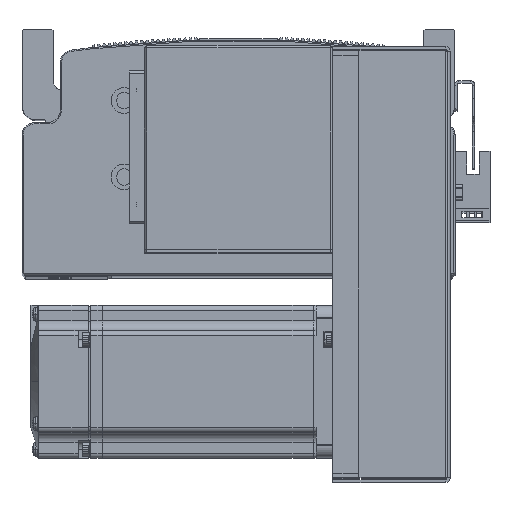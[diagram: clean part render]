
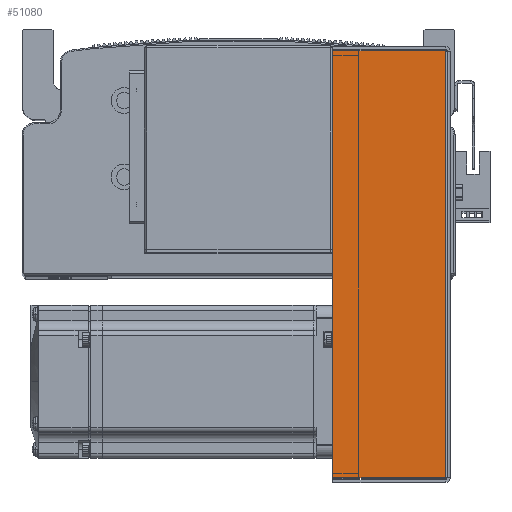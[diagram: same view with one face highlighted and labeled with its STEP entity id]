
A CAD part, top view. The second image highlights one B-rep face of the part: STEP entity #51080.
In plain terms, the highlighted planar face has unit normal (0, 0, 1) as drawn and (0, 0, -1) by its records, which use the part's own axes.
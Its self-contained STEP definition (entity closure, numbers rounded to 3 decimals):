
#4642 = VERTEX_POINT ( 'NONE', #66759 ) ;
#4685 = VERTEX_POINT ( 'NONE', #66741 ) ;
#4717 = VERTEX_POINT ( 'NONE', #66823 ) ;
#4849 = VERTEX_POINT ( 'NONE', #66890 ) ;
#19400 = LINE ( 'NONE', #36080, #19452 ) ;
#19437 = LINE ( 'NONE', #36063, #19486 ) ;
#19446 = VECTOR ( 'NONE', #35911, 1000. ) ;
#19447 = LINE ( 'NONE', #35852, #19446 ) ;
#19452 = VECTOR ( 'NONE', #36077, 1000. ) ;
#19486 = VECTOR ( 'NONE', #36097, 1000. ) ;
#19497 = LINE ( 'NONE', #36043, #19519 ) ;
#19519 = VECTOR ( 'NONE', #36057, 1000. ) ;
#22873 = FACE_OUTER_BOUND ( 'NONE', #56150, .T. ) ;
#35852 = CARTESIAN_POINT ( 'NONE',  ( 0., 0.737, -40.5 ) ) ;
#35911 = DIRECTION ( 'NONE',  ( 1., 0., 0. ) ) ;
#36043 = CARTESIAN_POINT ( 'NONE',  ( 84.5, 45., -40.5 ) ) ;
#36057 = DIRECTION ( 'NONE',  ( 1., 0., 0. ) ) ;
#36063 = CARTESIAN_POINT ( 'NONE',  ( -83.793, 0., -40.5 ) ) ;
#36077 = DIRECTION ( 'NONE',  ( 0., 1., 0. ) ) ;
#36080 = CARTESIAN_POINT ( 'NONE',  ( 83.793, 0., -40.5 ) ) ;
#36097 = DIRECTION ( 'NONE',  ( 0., 1., 0. ) ) ;
#51080 = ADVANCED_FACE ( 'NONE', ( #22873 ), #71628, .F. ) ;
#52811 = EDGE_CURVE ( 'NONE', #4642, #4717, #19447, .T. ) ;
#52854 = EDGE_CURVE ( 'NONE', #4717, #4685, #19400, .T. ) ;
#52878 = EDGE_CURVE ( 'NONE', #4642, #4849, #19437, .T. ) ;
#52884 = EDGE_CURVE ( 'NONE', #4849, #4685, #19497, .T. ) ;
#56150 = EDGE_LOOP ( 'NONE', ( #64340, #64400, #64379, #64415 ) ) ;
#64340 = ORIENTED_EDGE ( 'NONE', *, *, #52811, .F. ) ;
#64379 = ORIENTED_EDGE ( 'NONE', *, *, #52884, .T. ) ;
#64400 = ORIENTED_EDGE ( 'NONE', *, *, #52878, .T. ) ;
#64415 = ORIENTED_EDGE ( 'NONE', *, *, #52854, .F. ) ;
#66741 = CARTESIAN_POINT ( 'NONE',  ( 83.793, 45., -40.5 ) ) ;
#66759 = CARTESIAN_POINT ( 'NONE',  ( -83.793, 0.737, -40.5 ) ) ;
#66823 = CARTESIAN_POINT ( 'NONE',  ( 83.793, 0.737, -40.5 ) ) ;
#66890 = CARTESIAN_POINT ( 'NONE',  ( -83.793, 45., -40.5 ) ) ;
#71567 = CARTESIAN_POINT ( 'NONE',  ( 0., 0., -40.5 ) ) ;
#71602 = DIRECTION ( 'NONE',  ( 0., 0., 1. ) ) ;
#71604 = DIRECTION ( 'NONE',  ( 0., -1., 0. ) ) ;
#71628 = PLANE ( 'NONE',  #78860 ) ;
#78860 = AXIS2_PLACEMENT_3D ( 'NONE', #71567, #71602, #71604 ) ;
